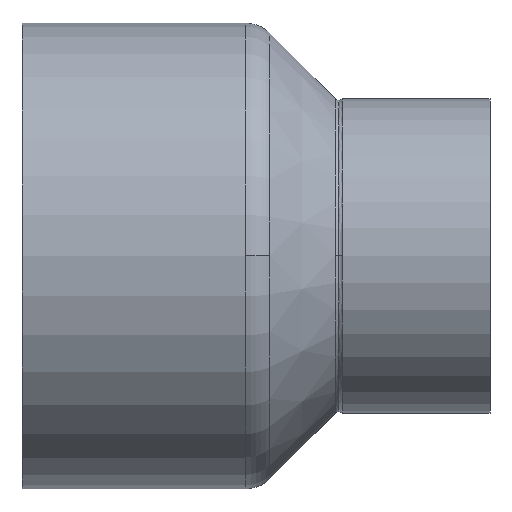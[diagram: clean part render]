
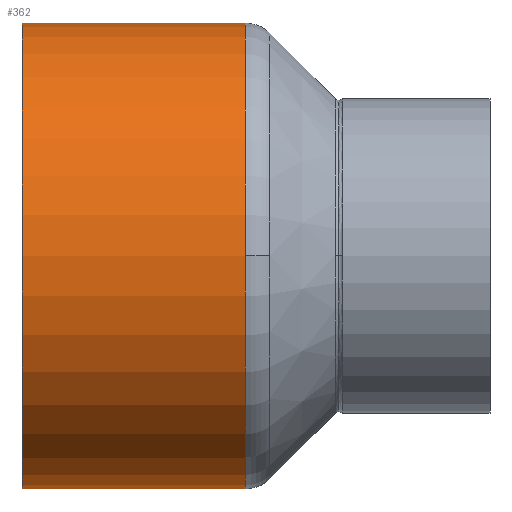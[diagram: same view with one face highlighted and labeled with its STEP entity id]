
A CAD part, top view. The second image highlights one B-rep face of the part: STEP entity #362.
In plain terms, the highlighted cylindrical face has radius 54 mm (diameter 108 mm), a partial arc.
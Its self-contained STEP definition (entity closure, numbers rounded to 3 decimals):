
#312=CARTESIAN_POINT('',(25.89,0.0,0.0));
#313=DIRECTION('',(1.0,0.0,0.0));
#314=DIRECTION('',(0.0,1.0,0.0));
#315=AXIS2_PLACEMENT_3D('',#312,#313,#314);
#316=CYLINDRICAL_SURFACE('',#315,54.0);
#317=CARTESIAN_POINT('',(0.0,54.0,0.0));
#318=VERTEX_POINT('',#317);
#319=CARTESIAN_POINT('',(51.78,54.0,0.0));
#320=VERTEX_POINT('',#319);
#321=CARTESIAN_POINT('',(0.0,54.0,0.0));
#322=DIRECTION('',(1.0,0.0,0.0));
#323=VECTOR('',#322,51.78);
#324=LINE('',#321,#323);
#325=EDGE_CURVE('',#318,#320,#324,.T.);
#326=ORIENTED_EDGE('',*,*,#325,.F.);
#327=CARTESIAN_POINT('',(0.0,-54.0,0.));
#328=VERTEX_POINT('',#327);
#329=CARTESIAN_POINT('',(0.0,0.0,0.0));
#330=DIRECTION('',(1.0,0.0,0.0));
#331=DIRECTION('',(0.0,1.0,0.0));
#332=AXIS2_PLACEMENT_3D('',#329,#330,#331);
#333=CIRCLE('',#332,54.0);
#334=EDGE_CURVE('',#318,#328,#333,.T.);
#335=ORIENTED_EDGE('',*,*,#334,.T.);
#336=CARTESIAN_POINT('',(51.78,-54.0,0.));
#337=VERTEX_POINT('',#336);
#338=CARTESIAN_POINT('',(51.78,-54.0,0.));
#339=DIRECTION('',(-1.0,0.0,0.0));
#340=VECTOR('',#339,51.78);
#341=LINE('',#338,#340);
#342=EDGE_CURVE('',#337,#328,#341,.T.);
#343=ORIENTED_EDGE('',*,*,#342,.F.);
#344=CARTESIAN_POINT('',(51.78,0.,54.0));
#345=VERTEX_POINT('',#344);
#346=CARTESIAN_POINT('',(51.78,0.0,0.0));
#347=DIRECTION('',(1.0,0.0,0.0));
#348=DIRECTION('',(0.0,1.0,0.0));
#349=AXIS2_PLACEMENT_3D('',#346,#347,#348);
#350=CIRCLE('',#349,54.0);
#351=EDGE_CURVE('',#345,#337,#350,.T.);
#352=ORIENTED_EDGE('',*,*,#351,.F.);
#353=CARTESIAN_POINT('',(51.78,0.0,0.0));
#354=DIRECTION('',(1.0,0.0,0.0));
#355=DIRECTION('',(0.0,1.0,0.0));
#356=AXIS2_PLACEMENT_3D('',#353,#354,#355);
#357=CIRCLE('',#356,54.0);
#358=EDGE_CURVE('',#320,#345,#357,.T.);
#359=ORIENTED_EDGE('',*,*,#358,.F.);
#360=EDGE_LOOP('',(#326,#335,#343,#352,#359));
#361=FACE_OUTER_BOUND('',#360,.T.);
#362=ADVANCED_FACE('',(#361),#316,.T.);
